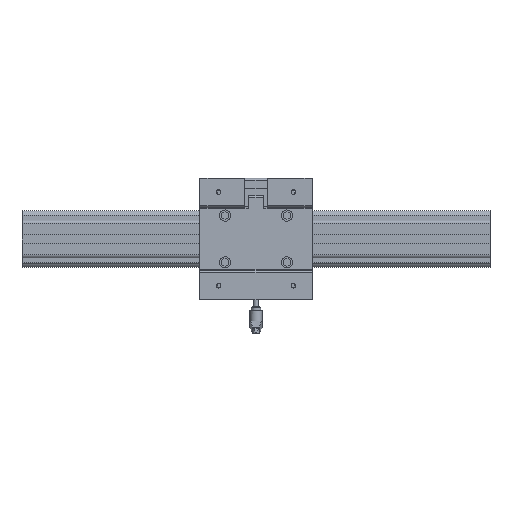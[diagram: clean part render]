
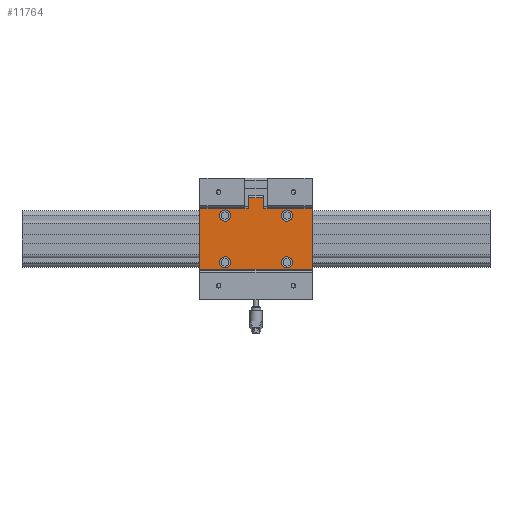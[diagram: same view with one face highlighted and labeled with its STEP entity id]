
A CAD part, top view. The second image highlights one B-rep face of the part: STEP entity #11764.
In plain terms, the highlighted planar face has unit normal (0, 0, 1).
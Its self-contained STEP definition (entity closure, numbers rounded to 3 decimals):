
#7432=CARTESIAN_POINT('',(87.,-25.0,28.7));
#7433=VERTEX_POINT('',#7432);
#7434=CARTESIAN_POINT('',(93.0,-25.0,28.7));
#7435=DIRECTION('',(0.0,0.0,-1.0));
#7436=DIRECTION('',(-1.0,0.0,0.0));
#7437=AXIS2_PLACEMENT_3D('',#7434,#7435,#7436);
#7438=CIRCLE('',#7437,6.);
#7439=EDGE_CURVE('',#7433,#7433,#7438,.T.);
#7528=CARTESIAN_POINT('',(21.,-25.0,28.7));
#7529=VERTEX_POINT('',#7528);
#7530=CARTESIAN_POINT('',(27.0,-25.0,28.7));
#7531=DIRECTION('',(0.0,0.0,-1.0));
#7532=DIRECTION('',(-1.0,0.0,0.0));
#7533=AXIS2_PLACEMENT_3D('',#7530,#7531,#7532);
#7534=CIRCLE('',#7533,6.);
#7535=EDGE_CURVE('',#7529,#7529,#7534,.T.);
#7624=CARTESIAN_POINT('',(87.,25.0,28.7));
#7625=VERTEX_POINT('',#7624);
#7626=CARTESIAN_POINT('',(93.0,25.0,28.7));
#7627=DIRECTION('',(0.0,0.0,-1.0));
#7628=DIRECTION('',(-1.0,0.0,0.0));
#7629=AXIS2_PLACEMENT_3D('',#7626,#7627,#7628);
#7630=CIRCLE('',#7629,6.);
#7631=EDGE_CURVE('',#7625,#7625,#7630,.T.);
#7906=CARTESIAN_POINT('',(21.0,25.0,28.7));
#7907=VERTEX_POINT('',#7906);
#7908=CARTESIAN_POINT('',(27.0,25.0,28.7));
#7909=DIRECTION('',(0.0,0.0,-1.0));
#7910=DIRECTION('',(-1.0,0.0,0.0));
#7911=AXIS2_PLACEMENT_3D('',#7908,#7909,#7910);
#7912=CIRCLE('',#7911,6.);
#7913=EDGE_CURVE('',#7907,#7907,#7912,.T.);
#10831=CARTESIAN_POINT('',(52.0,33.,28.7));
#10832=VERTEX_POINT('',#10831);
#10839=CARTESIAN_POINT('',(52.0,44.,28.7));
#10840=VERTEX_POINT('',#10839);
#10841=CARTESIAN_POINT('',(52.0,44.,28.7));
#10842=DIRECTION('',(0.0,-1.0,0.0));
#10843=VECTOR('',#10842,11.);
#10844=LINE('',#10841,#10843);
#10845=EDGE_CURVE('',#10840,#10832,#10844,.T.);
#10878=CARTESIAN_POINT('',(68.0,44.,28.7));
#10879=VERTEX_POINT('',#10878);
#10896=CARTESIAN_POINT('',(68.0,44.,28.7));
#10897=DIRECTION('',(-1.0,0.0,0.0));
#10898=VECTOR('',#10897,16.0);
#10899=LINE('',#10896,#10898);
#10900=EDGE_CURVE('',#10879,#10840,#10899,.T.);
#11020=CARTESIAN_POINT('',(68.0,33.,28.7));
#11021=VERTEX_POINT('',#11020);
#11022=CARTESIAN_POINT('',(68.0,33.,28.7));
#11023=DIRECTION('',(0.0,1.0,0.0));
#11024=VECTOR('',#11023,11.);
#11025=LINE('',#11022,#11024);
#11026=EDGE_CURVE('',#11021,#10879,#11025,.T.);
#11051=CARTESIAN_POINT('',(48.,33.,28.7));
#11052=VERTEX_POINT('',#11051);
#11059=CARTESIAN_POINT('',(48.,33.,28.7));
#11060=DIRECTION('',(1.0,0.0,0.0));
#11061=VECTOR('',#11060,4.);
#11062=LINE('',#11059,#11061);
#11063=EDGE_CURVE('',#11052,#10832,#11062,.T.);
#11074=CARTESIAN_POINT('',(72.0,33.,28.7));
#11075=VERTEX_POINT('',#11074);
#11076=CARTESIAN_POINT('',(68.0,33.,28.7));
#11077=DIRECTION('',(1.0,0.0,0.0));
#11078=VECTOR('',#11077,4.0);
#11079=LINE('',#11076,#11078);
#11080=EDGE_CURVE('',#11021,#11075,#11079,.T.);
#11556=CARTESIAN_POINT('',(120.0,33.,28.7));
#11557=VERTEX_POINT('',#11556);
#11558=CARTESIAN_POINT('',(72.0,33.,28.7));
#11559=DIRECTION('',(1.0,0.0,0.0));
#11560=VECTOR('',#11559,48.0);
#11561=LINE('',#11558,#11560);
#11562=EDGE_CURVE('',#11075,#11557,#11561,.T.);
#11690=CARTESIAN_POINT('',(120.0,-33.,28.7));
#11691=VERTEX_POINT('',#11690);
#11699=CARTESIAN_POINT('',(0.0,-33.,28.7));
#11700=VERTEX_POINT('',#11699);
#11701=CARTESIAN_POINT('',(0.0,-33.,28.7));
#11702=DIRECTION('',(1.0,0.0,0.0));
#11703=VECTOR('',#11702,120.0);
#11704=LINE('',#11701,#11703);
#11705=EDGE_CURVE('',#11700,#11691,#11704,.T.);
#11718=CARTESIAN_POINT('',(0.0,-33.,28.7));
#11719=DIRECTION('',(0.0,0.0,1.0));
#11720=DIRECTION('',(1.0,0.0,0.0));
#11721=AXIS2_PLACEMENT_3D('',#11718,#11719,#11720);
#11722=PLANE('',#11721);
#11723=CARTESIAN_POINT('',(120.0,-33.,28.7));
#11724=DIRECTION('',(0.0,1.0,0.0));
#11725=VECTOR('',#11724,66.);
#11726=LINE('',#11723,#11725);
#11727=EDGE_CURVE('',#11691,#11557,#11726,.T.);
#11728=ORIENTED_EDGE('',*,*,#11727,.T.);
#11729=ORIENTED_EDGE('',*,*,#11562,.F.);
#11730=ORIENTED_EDGE('',*,*,#11080,.F.);
#11731=ORIENTED_EDGE('',*,*,#11026,.T.);
#11732=ORIENTED_EDGE('',*,*,#10900,.T.);
#11733=ORIENTED_EDGE('',*,*,#10845,.T.);
#11734=ORIENTED_EDGE('',*,*,#11063,.F.);
#11735=CARTESIAN_POINT('',(0.0,33.,28.7));
#11736=VERTEX_POINT('',#11735);
#11737=CARTESIAN_POINT('',(0.0,33.,28.7));
#11738=DIRECTION('',(1.0,0.0,0.0));
#11739=VECTOR('',#11738,48.);
#11740=LINE('',#11737,#11739);
#11741=EDGE_CURVE('',#11736,#11052,#11740,.T.);
#11742=ORIENTED_EDGE('',*,*,#11741,.F.);
#11743=CARTESIAN_POINT('',(0.0,-33.,28.7));
#11744=DIRECTION('',(0.0,1.0,0.0));
#11745=VECTOR('',#11744,66.);
#11746=LINE('',#11743,#11745);
#11747=EDGE_CURVE('',#11700,#11736,#11746,.T.);
#11748=ORIENTED_EDGE('',*,*,#11747,.F.);
#11749=ORIENTED_EDGE('',*,*,#11705,.T.);
#11750=EDGE_LOOP('',(#11728,#11729,#11730,#11731,#11732,#11733,#11734,#11742,#11748,#11749));
#11751=FACE_OUTER_BOUND('',#11750,.T.);
#11752=ORIENTED_EDGE('',*,*,#7439,.T.);
#11753=EDGE_LOOP('',(#11752));
#11754=FACE_BOUND('',#11753,.T.);
#11755=ORIENTED_EDGE('',*,*,#7535,.T.);
#11756=EDGE_LOOP('',(#11755));
#11757=FACE_BOUND('',#11756,.T.);
#11758=ORIENTED_EDGE('',*,*,#7631,.T.);
#11759=EDGE_LOOP('',(#11758));
#11760=FACE_BOUND('',#11759,.T.);
#11761=ORIENTED_EDGE('',*,*,#7913,.T.);
#11762=EDGE_LOOP('',(#11761));
#11763=FACE_BOUND('',#11762,.T.);
#11764=ADVANCED_FACE('',(#11751,#11754,#11757,#11760,#11763),#11722,.T.);
